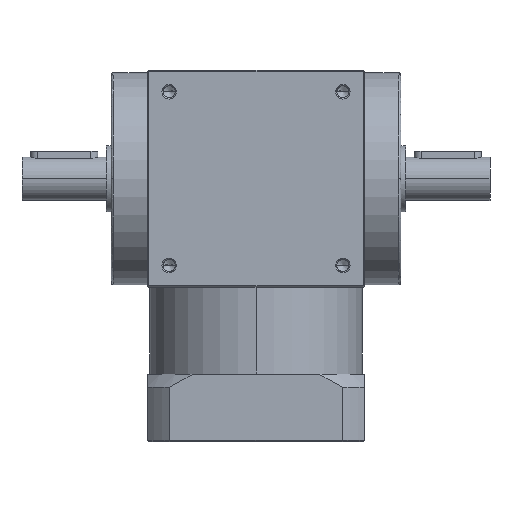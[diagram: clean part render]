
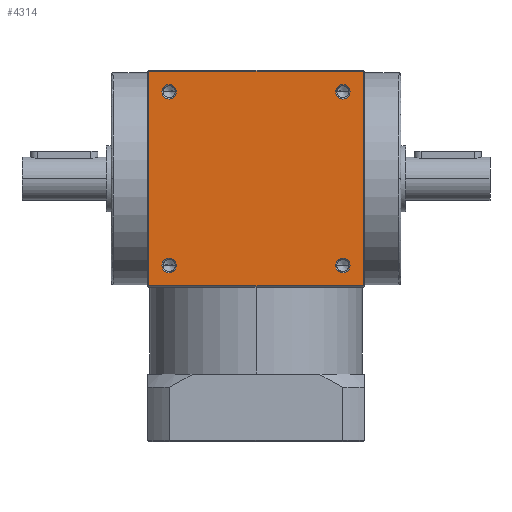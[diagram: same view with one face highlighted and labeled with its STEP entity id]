
A CAD part, top view. The second image highlights one B-rep face of the part: STEP entity #4314.
In plain terms, the highlighted planar face has unit normal (0, 0, 1).
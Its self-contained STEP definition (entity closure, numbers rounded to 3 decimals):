
#52 = DIRECTION ( 'NONE',  ( 1., 0., 0. ) ) ;
#62 = CARTESIAN_POINT ( 'NONE',  ( 36., -36., 45. ) ) ;
#130 = DIRECTION ( 'NONE',  ( 0., 0., 1. ) ) ;
#174 = CARTESIAN_POINT ( 'NONE',  ( -36., 36., 45. ) ) ;
#180 = CARTESIAN_POINT ( 'NONE',  ( -33., 36., 45. ) ) ;
#511 = CIRCLE ( 'NONE', #9776, 3. ) ;
#817 = EDGE_LOOP ( 'NONE', ( #10645, #4783 ) ) ;
#952 = DIRECTION ( 'NONE',  ( 0., 0., 1. ) ) ;
#999 = CARTESIAN_POINT ( 'NONE',  ( 44.5, 44.5, 45. ) ) ;
#1037 = DIRECTION ( 'NONE',  ( 0., 0., -1. ) ) ;
#1056 = AXIS2_PLACEMENT_3D ( 'NONE', #7031, #952, #8071 ) ;
#1095 = CARTESIAN_POINT ( 'NONE',  ( 44.5, -44.5, 45. ) ) ;
#1098 = DIRECTION ( 'NONE',  ( 1., 0., 0. ) ) ;
#1323 = EDGE_CURVE ( 'NONE', #3084, #6872, #12963, .T. ) ;
#1445 = VERTEX_POINT ( 'NONE', #9512 ) ;
#1612 = EDGE_CURVE ( 'NONE', #9729, #1757, #7477, .T. ) ;
#1697 = EDGE_CURVE ( 'NONE', #12533, #1445, #7927, .T. ) ;
#1714 = VERTEX_POINT ( 'NONE', #999 ) ;
#1748 = CARTESIAN_POINT ( 'NONE',  ( 36., 36., 45. ) ) ;
#1757 = VERTEX_POINT ( 'NONE', #12195 ) ;
#1829 = ORIENTED_EDGE ( 'NONE', *, *, #5240, .F. ) ;
#1974 = DIRECTION ( 'NONE',  ( -1., 0., 0. ) ) ;
#2249 = CARTESIAN_POINT ( 'NONE',  ( -33., -36., 45. ) ) ;
#2780 = DIRECTION ( 'NONE',  ( 1., 0., 0. ) ) ;
#2830 = CARTESIAN_POINT ( 'NONE',  ( -44.5, -44.5, 45. ) ) ;
#2883 = EDGE_LOOP ( 'NONE', ( #13068, #3375 ) ) ;
#3042 = PLANE ( 'NONE',  #10122 ) ;
#3084 = VERTEX_POINT ( 'NONE', #2249 ) ;
#3189 = CIRCLE ( 'NONE', #10195, 3. ) ;
#3235 = EDGE_CURVE ( 'NONE', #10963, #1714, #4035, .T. ) ;
#3340 = AXIS2_PLACEMENT_3D ( 'NONE', #174, #130, #52 ) ;
#3375 = ORIENTED_EDGE ( 'NONE', *, *, #5397, .F. ) ;
#3857 = AXIS2_PLACEMENT_3D ( 'NONE', #11489, #11438, #11392 ) ;
#3871 = VECTOR ( 'NONE', #1974, 1000. ) ;
#3897 = VERTEX_POINT ( 'NONE', #12249 ) ;
#4030 = DIRECTION ( 'NONE',  ( 0., 0., 1. ) ) ;
#4035 = LINE ( 'NONE', #5606, #11905 ) ;
#4314 = ADVANCED_FACE ( 'NONE', ( #12832, #5964, #5948, #4361, #5903 ), #3042, .F. ) ;
#4342 = CIRCLE ( 'NONE', #8285, 3. ) ;
#4361 = FACE_BOUND ( 'NONE', #12220, .T. ) ;
#4382 = CIRCLE ( 'NONE', #10531, 3. ) ;
#4419 = CARTESIAN_POINT ( 'NONE',  ( 39., -36., 45. ) ) ;
#4421 = EDGE_CURVE ( 'NONE', #7662, #10963, #10239, .T. ) ;
#4588 = DIRECTION ( 'NONE',  ( 1., 0., 0. ) ) ;
#4783 = ORIENTED_EDGE ( 'NONE', *, *, #6026, .F. ) ;
#4856 = DIRECTION ( 'NONE',  ( 0., 0., 1. ) ) ;
#5240 = EDGE_CURVE ( 'NONE', #1445, #12533, #511, .T. ) ;
#5397 = EDGE_CURVE ( 'NONE', #1757, #9729, #3189, .T. ) ;
#5477 = DIRECTION ( 'NONE',  ( 1., 0., 0. ) ) ;
#5563 = DIRECTION ( 'NONE',  ( 0., 0., 1. ) ) ;
#5606 = CARTESIAN_POINT ( 'NONE',  ( 44.5, 44.5, 45. ) ) ;
#5658 = CARTESIAN_POINT ( 'NONE',  ( 36., 36., 45. ) ) ;
#5903 = FACE_BOUND ( 'NONE', #2883, .T. ) ;
#5948 = FACE_BOUND ( 'NONE', #817, .T. ) ;
#5964 = FACE_BOUND ( 'NONE', #8090, .T. ) ;
#6026 = EDGE_CURVE ( 'NONE', #6872, #3084, #4342, .T. ) ;
#6071 = ORIENTED_EDGE ( 'NONE', *, *, #4421, .F. ) ;
#6216 = DIRECTION ( 'NONE',  ( 0., 1., 0. ) ) ;
#6281 = EDGE_CURVE ( 'NONE', #9901, #7662, #8978, .T. ) ;
#6346 = ORIENTED_EDGE ( 'NONE', *, *, #11950, .F. ) ;
#6478 = CARTESIAN_POINT ( 'NONE',  ( 33., 36., 45. ) ) ;
#6584 = CARTESIAN_POINT ( 'NONE',  ( -44.5, 44.5, 45. ) ) ;
#6647 = ORIENTED_EDGE ( 'NONE', *, *, #3235, .F. ) ;
#6671 = VECTOR ( 'NONE', #7182, 1000. ) ;
#6683 = LINE ( 'NONE', #1095, #6671 ) ;
#6824 = VECTOR ( 'NONE', #6216, 1000. ) ;
#6872 = VERTEX_POINT ( 'NONE', #7557 ) ;
#7027 = ORIENTED_EDGE ( 'NONE', *, *, #1697, .F. ) ;
#7031 = CARTESIAN_POINT ( 'NONE',  ( 36., -36., 45. ) ) ;
#7123 = CARTESIAN_POINT ( 'NONE',  ( 44.5, -44.5, 45. ) ) ;
#7182 = DIRECTION ( 'NONE',  ( 0., -1., 0. ) ) ;
#7187 = DIRECTION ( 'NONE',  ( 0., 0., 1. ) ) ;
#7253 = CARTESIAN_POINT ( 'NONE',  ( -44.5, -44.5, 45. ) ) ;
#7351 = CIRCLE ( 'NONE', #1056, 3. ) ;
#7477 = CIRCLE ( 'NONE', #3340, 3. ) ;
#7557 = CARTESIAN_POINT ( 'NONE',  ( -39., -36., 45. ) ) ;
#7662 = VERTEX_POINT ( 'NONE', #2830 ) ;
#7927 = CIRCLE ( 'NONE', #9477, 3. ) ;
#8071 = DIRECTION ( 'NONE',  ( 1., 0., 0. ) ) ;
#8090 = EDGE_LOOP ( 'NONE', ( #6346, #11360 ) ) ;
#8157 = DIRECTION ( 'NONE',  ( -1., 0., 0. ) ) ;
#8285 = AXIS2_PLACEMENT_3D ( 'NONE', #10912, #4856, #11936 ) ;
#8488 = EDGE_LOOP ( 'NONE', ( #6071, #12373, #9630, #6647 ) ) ;
#8851 = DIRECTION ( 'NONE',  ( 0., 0., 1. ) ) ;
#8978 = LINE ( 'NONE', #9081, #3871 ) ;
#9081 = CARTESIAN_POINT ( 'NONE',  ( 44.5, -44.5, 45. ) ) ;
#9406 = EDGE_CURVE ( 'NONE', #1714, #9901, #6683, .T. ) ;
#9477 = AXIS2_PLACEMENT_3D ( 'NONE', #5658, #5563, #5477 ) ;
#9512 = CARTESIAN_POINT ( 'NONE',  ( 39., 36., 45. ) ) ;
#9630 = ORIENTED_EDGE ( 'NONE', *, *, #9406, .F. ) ;
#9729 = VERTEX_POINT ( 'NONE', #180 ) ;
#9776 = AXIS2_PLACEMENT_3D ( 'NONE', #1748, #8851, #2780 ) ;
#9799 = VERTEX_POINT ( 'NONE', #4419 ) ;
#9901 = VERTEX_POINT ( 'NONE', #10609 ) ;
#10094 = CARTESIAN_POINT ( 'NONE',  ( -36., 36., 45. ) ) ;
#10121 = EDGE_CURVE ( 'NONE', #3897, #9799, #7351, .T. ) ;
#10122 = AXIS2_PLACEMENT_3D ( 'NONE', #7123, #1037, #8157 ) ;
#10195 = AXIS2_PLACEMENT_3D ( 'NONE', #10094, #4030, #11103 ) ;
#10239 = LINE ( 'NONE', #7253, #6824 ) ;
#10531 = AXIS2_PLACEMENT_3D ( 'NONE', #62, #7187, #1098 ) ;
#10609 = CARTESIAN_POINT ( 'NONE',  ( 44.5, -44.5, 45. ) ) ;
#10645 = ORIENTED_EDGE ( 'NONE', *, *, #1323, .F. ) ;
#10912 = CARTESIAN_POINT ( 'NONE',  ( -36., -36., 45. ) ) ;
#10963 = VERTEX_POINT ( 'NONE', #6584 ) ;
#11103 = DIRECTION ( 'NONE',  ( 1., 0., 0. ) ) ;
#11360 = ORIENTED_EDGE ( 'NONE', *, *, #10121, .F. ) ;
#11392 = DIRECTION ( 'NONE',  ( 1., 0., 0. ) ) ;
#11438 = DIRECTION ( 'NONE',  ( 0., 0., 1. ) ) ;
#11489 = CARTESIAN_POINT ( 'NONE',  ( -36., -36., 45. ) ) ;
#11905 = VECTOR ( 'NONE', #4588, 1000. ) ;
#11936 = DIRECTION ( 'NONE',  ( 1., 0., 0. ) ) ;
#11950 = EDGE_CURVE ( 'NONE', #9799, #3897, #4382, .T. ) ;
#12195 = CARTESIAN_POINT ( 'NONE',  ( -39., 36., 45. ) ) ;
#12220 = EDGE_LOOP ( 'NONE', ( #1829, #7027 ) ) ;
#12249 = CARTESIAN_POINT ( 'NONE',  ( 33., -36., 45. ) ) ;
#12373 = ORIENTED_EDGE ( 'NONE', *, *, #6281, .F. ) ;
#12533 = VERTEX_POINT ( 'NONE', #6478 ) ;
#12832 = FACE_OUTER_BOUND ( 'NONE', #8488, .T. ) ;
#12963 = CIRCLE ( 'NONE', #3857, 3. ) ;
#13068 = ORIENTED_EDGE ( 'NONE', *, *, #1612, .F. ) ;
